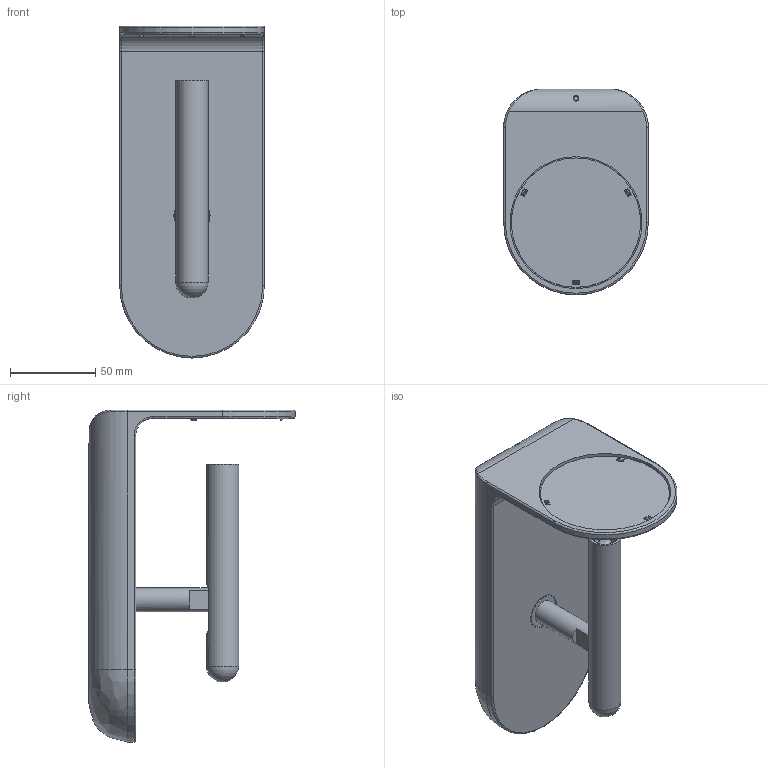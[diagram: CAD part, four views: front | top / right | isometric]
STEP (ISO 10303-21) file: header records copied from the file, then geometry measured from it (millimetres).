
FILE_DESCRIPTION( ( 'Unknown' ), '1' );
FILE_NAME( 'U:/ARCHIVIO TECNICO/ARCHIVIO 3D/7975.stp', 'Unknown', ( 'Unknown' ), ( 'Unknown' ), 'PSStep 17.0.49', 'Unknown', ' ' );
FILE_SCHEMA( ( 'AUTOMOTIVE_DESIGN { 1 0 10303 214 1 1 1 1 }' ) );
Length unit declared in the file: millimetre
Products named in the file (13): Assem1; 150000104064; 150000101064; 155000374064; 155000376021; 060000086356; 151001038710; 216000013013; H1233-5; 061000192713; 063000158356; R2449-1; R3956-1
Assembly tree (12 placements, depth 2):
  Assem1
    150000104064
    150000101064
    155000374064
    155000376021
    060000086356
    151001038710
    216000013013
    H1233-5
    061000192713
    063000158356
    R2449-1
    R3956-1
Bounding box: 85 x 121 x 195 mm (x, y, z)
Volume: 278128.4 mm3; surface area: 108344 mm2
Topology: 12 solids, 12 shells, 571 faces, 1437 edges, 910 vertices
Faces by surface type: plane 267, cylinder 149, extrusion 62, torus 33, cone 27, bspline 17, sphere 16
Full cylindrical faces by diameter (mm): 1.8 x2, 3 x1, 3.242 x4, 3.5 x1, 4 x3, 4.5 x1, 6.35 x1, 8.4 x1, 9 x1, 10 x2, 10.5 x1, 14 x1, 14.917 x2, 16 x1, 19 x1, 20 x1, 70 x1, 76 x1, 77.5 x1
Entity records: 23688 total; most frequent: CARTESIAN_POINT 5751, ORIENTED_EDGE 2688, DIRECTION 2594, EDGE_CURVE 1344, VERTEX_POINT 889, AXIS2_PLACEMENT_3D 875, VECTOR 844, LINE 782
